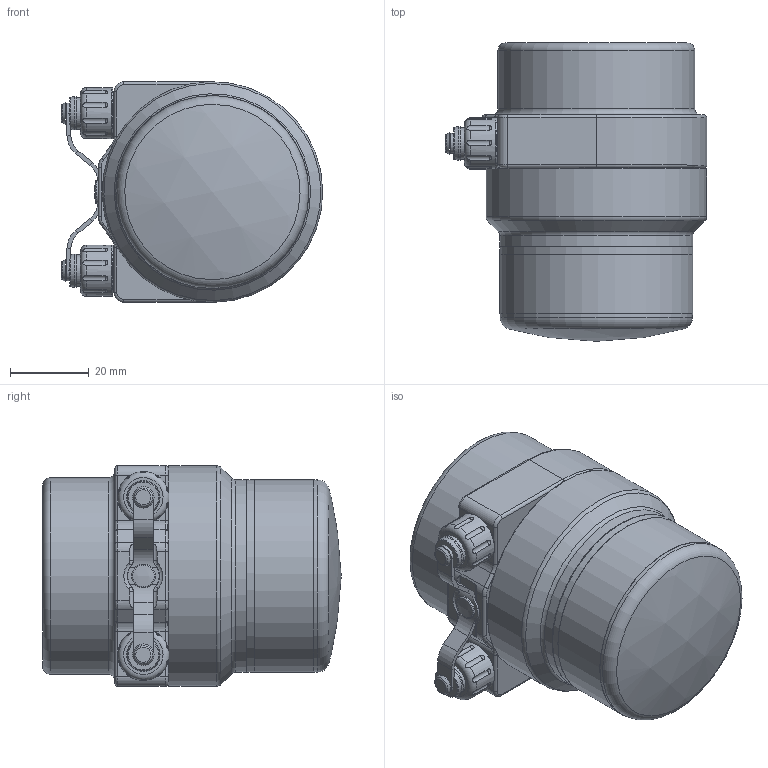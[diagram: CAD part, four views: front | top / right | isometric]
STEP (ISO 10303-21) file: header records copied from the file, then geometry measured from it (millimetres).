
FILE_DESCRIPTION (( 'STEP AP214' ), '1' );
FILE_NAME ('Micron Data Modem.STEP', '2014-12-10T09:55:37', ( 'Allan' ), ( 'Microsoft' ), 'SwSTEP 2.0', 'SolidWorks 2013', '' );
FILE_SCHEMA (( 'AUTOMOTIVE_DESIGN' ));
Length unit declared in the file: inch
Products named in the file (1): Micron Data Modem
Bounding box: 66.35 x 75.8 x 56 mm (x, y, z)
Surface area: 20939.4 mm2 (no closed solid volume)
Topology: 0 solids, 15 shells, 209 faces, 526 edges, 334 vertices
Faces by surface type: cylinder 82, plane 50, torus 38, sphere 22, cone 9, bspline 8
Full cylindrical faces by diameter (mm): 2.5 x4, 6 x1, 8 x2, 8.2 x2, 8.5 x2, 11.049 x4, 13 x2, 48.85 x1, 49 x3, 50 x1, 56 x1
Entity records: 9311 total; most frequent: CARTESIAN_POINT 1958, DIRECTION 1014, ORIENTED_EDGE 843, EDGE_CURVE 460, AXIS2_PLACEMENT_3D 432, VERTEX_POINT 320, EDGE_LOOP 278, FACE_OUTER_BOUND 244
